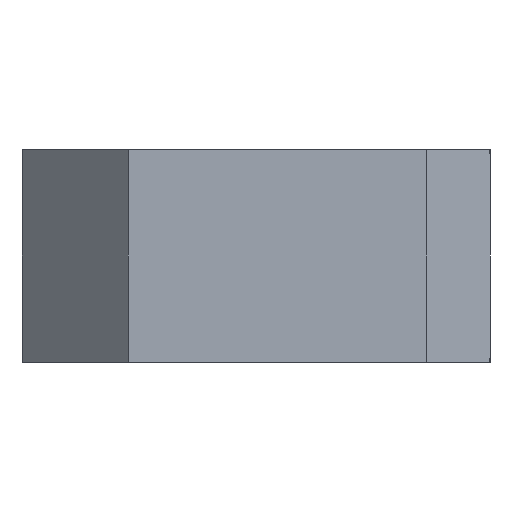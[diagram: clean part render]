
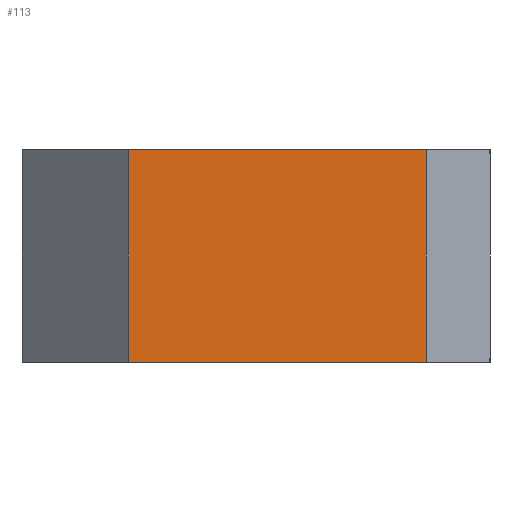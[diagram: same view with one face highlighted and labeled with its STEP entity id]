
A CAD part, left-side view. The second image highlights one B-rep face of the part: STEP entity #113.
In plain terms, the highlighted planar face has unit normal (-1, 0, 0).
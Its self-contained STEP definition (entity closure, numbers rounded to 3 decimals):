
#95=PLANE('',#1135);
#113=ADVANCED_FACE('',(#175),#95,.T.);
#175=FACE_OUTER_BOUND('',#261,.F.);
#261=EDGE_LOOP('',(#396,#397,#398,#399));
#396=ORIENTED_EDGE('',*,*,#886,.T.);
#397=ORIENTED_EDGE('',*,*,#908,.F.);
#398=ORIENTED_EDGE('',*,*,#899,.F.);
#399=ORIENTED_EDGE('',*,*,#909,.T.);
#704=LINE('',#1684,#784);
#715=LINE('',#1697,#795);
#724=LINE('',#1706,#804);
#725=LINE('',#1707,#805);
#784=VECTOR('',#1267,7.032);
#795=VECTOR('',#1282,7.032);
#804=VECTOR('',#1291,5.);
#805=VECTOR('',#1292,5.);
#886=EDGE_CURVE('',#1027,#1028,#704,.T.);
#899=EDGE_CURVE('',#1017,#1018,#715,.T.);
#908=EDGE_CURVE('',#1018,#1028,#724,.T.);
#909=EDGE_CURVE('',#1017,#1027,#725,.T.);
#1017=VERTEX_POINT('',#1547);
#1018=VERTEX_POINT('',#1548);
#1027=VERTEX_POINT('',#1557);
#1028=VERTEX_POINT('',#1558);
#1135=AXIS2_PLACEMENT_3D('',#1747,#1351,#1352);
#1267=DIRECTION('',(0.,1.,0.));
#1282=DIRECTION('',(0.,1.,0.));
#1291=DIRECTION('',(0.,0.,-1.));
#1292=DIRECTION('',(0.,0.,-1.));
#1351=DIRECTION('',(-1.,0.,0.));
#1352=DIRECTION('',(0.,1.,0.));
#1547=CARTESIAN_POINT('',(168.962,33.605,-79.332));
#1548=CARTESIAN_POINT('',(168.962,40.637,-79.332));
#1557=CARTESIAN_POINT('',(168.962,33.605,-84.332));
#1558=CARTESIAN_POINT('',(168.962,40.637,-84.332));
#1684=CARTESIAN_POINT('',(168.962,33.605,-84.332));
#1697=CARTESIAN_POINT('',(168.962,33.605,-79.332));
#1706=CARTESIAN_POINT('',(168.962,40.637,-79.332));
#1707=CARTESIAN_POINT('',(168.962,33.605,-79.332));
#1747=CARTESIAN_POINT('',(168.962,33.534,-79.262));
